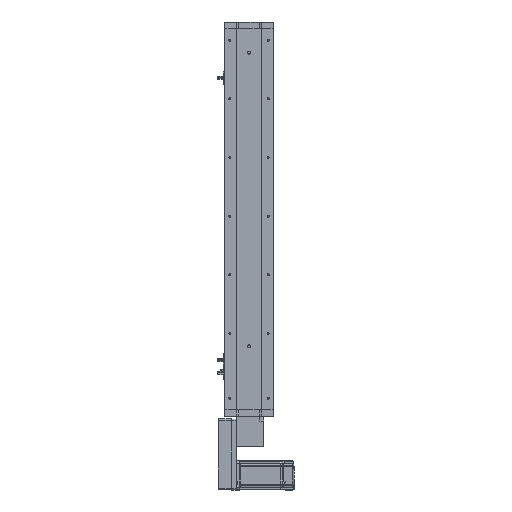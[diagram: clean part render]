
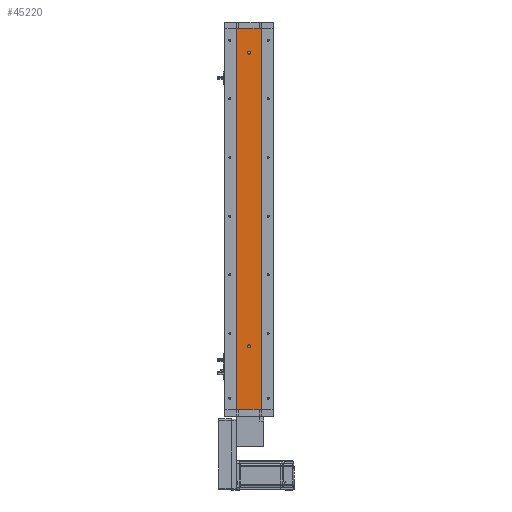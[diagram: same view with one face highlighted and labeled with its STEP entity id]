
A CAD part, left-side view. The second image highlights one B-rep face of the part: STEP entity #45220.
In plain terms, the highlighted planar face has unit normal (-1, 0, 0).
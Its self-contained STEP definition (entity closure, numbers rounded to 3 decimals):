
#641 = DIRECTION ( 'NONE',  ( 0., -1., 0. ) ) ;
#775 = DIRECTION ( 'NONE',  ( 0., 0., 1. ) ) ;
#964 = DIRECTION ( 'NONE',  ( 0., -1., 0. ) ) ;
#1505 = LINE ( 'NONE', #52764, #14942 ) ;
#1965 = CARTESIAN_POINT ( 'NONE',  ( -18.926, 0., 733. ) ) ;
#2054 = CARTESIAN_POINT ( 'NONE',  ( -18.926, -24.785, 780. ) ) ;
#3705 = CARTESIAN_POINT ( 'NONE',  ( -18.926, -24.785, 780. ) ) ;
#4075 = CARTESIAN_POINT ( 'NONE',  ( -18.926, -24.785, 0. ) ) ;
#4166 = ORIENTED_EDGE ( 'NONE', *, *, #31981, .F. ) ;
#5437 = CARTESIAN_POINT ( 'NONE',  ( -18.926, 0., 727. ) ) ;
#7392 = CIRCLE ( 'NONE', #35010, 3. ) ;
#8353 = EDGE_CURVE ( 'NONE', #23643, #31760, #49409, .T. ) ;
#8849 = DIRECTION ( 'NONE',  ( 0., 0., -1. ) ) ;
#9722 = VECTOR ( 'NONE', #964, 1000. ) ;
#10135 = VECTOR ( 'NONE', #8849, 1000. ) ;
#10209 = ORIENTED_EDGE ( 'NONE', *, *, #31285, .T. ) ;
#11812 = DIRECTION ( 'NONE',  ( -1., 0., 0. ) ) ;
#12088 = VERTEX_POINT ( 'NONE', #5437 ) ;
#12410 = FACE_OUTER_BOUND ( 'NONE', #53304, .T. ) ;
#12825 = CARTESIAN_POINT ( 'NONE',  ( -18.926, 24.785, 780. ) ) ;
#13532 = CARTESIAN_POINT ( 'NONE',  ( -18.926, 0., 130. ) ) ;
#14942 = VECTOR ( 'NONE', #17474, 1000. ) ;
#15565 = FACE_BOUND ( 'NONE', #46084, .T. ) ;
#16948 = VERTEX_POINT ( 'NONE', #2054 ) ;
#17474 = DIRECTION ( 'NONE',  ( 0., 0., -1. ) ) ;
#17842 = DIRECTION ( 'NONE',  ( 0., 0., -1. ) ) ;
#17947 = ORIENTED_EDGE ( 'NONE', *, *, #19335, .F. ) ;
#18553 = DIRECTION ( 'NONE',  ( 0., 0., 1. ) ) ;
#19335 = EDGE_CURVE ( 'NONE', #25209, #12088, #7392, .T. ) ;
#22109 = ORIENTED_EDGE ( 'NONE', *, *, #63446, .F. ) ;
#23643 = VERTEX_POINT ( 'NONE', #44068 ) ;
#24608 = AXIS2_PLACEMENT_3D ( 'NONE', #12825, #48079, #17842 ) ;
#25209 = VERTEX_POINT ( 'NONE', #1965 ) ;
#28448 = CARTESIAN_POINT ( 'NONE',  ( -18.926, 0., 730. ) ) ;
#30990 = DIRECTION ( 'NONE',  ( -1., 0., 0. ) ) ;
#31285 = EDGE_CURVE ( 'NONE', #59730, #65208, #1505, .T. ) ;
#31290 = CIRCLE ( 'NONE', #34780, 3. ) ;
#31760 = VERTEX_POINT ( 'NONE', #61219 ) ;
#31981 = EDGE_CURVE ( 'NONE', #16948, #54096, #62790, .T. ) ;
#33196 = LINE ( 'NONE', #60775, #46675 ) ;
#33483 = DIRECTION ( 'NONE',  ( 0., 0., 1. ) ) ;
#34503 = ORIENTED_EDGE ( 'NONE', *, *, #60146, .F. ) ;
#34770 = CIRCLE ( 'NONE', #35518, 3. ) ;
#34780 = AXIS2_PLACEMENT_3D ( 'NONE', #28448, #63651, #33483 ) ;
#35010 = AXIS2_PLACEMENT_3D ( 'NONE', #42014, #11812, #47078 ) ;
#35518 = AXIS2_PLACEMENT_3D ( 'NONE', #13532, #48781, #18553 ) ;
#35753 = ORIENTED_EDGE ( 'NONE', *, *, #46531, .T. ) ;
#36040 = CARTESIAN_POINT ( 'NONE',  ( -18.926, 24.785, 0. ) ) ;
#36504 = LINE ( 'NONE', #61325, #9722 ) ;
#40776 = ORIENTED_EDGE ( 'NONE', *, *, #45295, .F. ) ;
#42014 = CARTESIAN_POINT ( 'NONE',  ( -18.926, 0., 730. ) ) ;
#44068 = CARTESIAN_POINT ( 'NONE',  ( -18.926, 0., 127. ) ) ;
#45220 = ADVANCED_FACE ( 'NONE', ( #54193, #15565, #12410 ), #57907, .F. ) ;
#45295 = EDGE_CURVE ( 'NONE', #12088, #25209, #31290, .T. ) ;
#45496 = ORIENTED_EDGE ( 'NONE', *, *, #8353, .F. ) ;
#46084 = EDGE_LOOP ( 'NONE', ( #17947, #40776 ) ) ;
#46531 = EDGE_CURVE ( 'NONE', #65208, #54096, #36504, .T. ) ;
#46675 = VECTOR ( 'NONE', #641, 1000. ) ;
#47078 = DIRECTION ( 'NONE',  ( 0., 0., 1. ) ) ;
#48079 = DIRECTION ( 'NONE',  ( 1., 0., 0. ) ) ;
#48781 = DIRECTION ( 'NONE',  ( -1., 0., 0. ) ) ;
#49409 = CIRCLE ( 'NONE', #58120, 3. ) ;
#52764 = CARTESIAN_POINT ( 'NONE',  ( -18.926, 24.785, 780. ) ) ;
#53304 = EDGE_LOOP ( 'NONE', ( #35753, #4166, #22109, #10209 ) ) ;
#54096 = VERTEX_POINT ( 'NONE', #4075 ) ;
#54193 = FACE_BOUND ( 'NONE', #63588, .T. ) ;
#57907 = PLANE ( 'NONE',  #24608 ) ;
#58120 = AXIS2_PLACEMENT_3D ( 'NONE', #61126, #30990, #775 ) ;
#59730 = VERTEX_POINT ( 'NONE', #60450 ) ;
#60146 = EDGE_CURVE ( 'NONE', #31760, #23643, #34770, .T. ) ;
#60450 = CARTESIAN_POINT ( 'NONE',  ( -18.926, 24.785, 780. ) ) ;
#60775 = CARTESIAN_POINT ( 'NONE',  ( -18.926, 24.785, 780. ) ) ;
#61126 = CARTESIAN_POINT ( 'NONE',  ( -18.926, 0., 130. ) ) ;
#61219 = CARTESIAN_POINT ( 'NONE',  ( -18.926, 0., 133. ) ) ;
#61325 = CARTESIAN_POINT ( 'NONE',  ( -18.926, 24.785, 0. ) ) ;
#62790 = LINE ( 'NONE', #3705, #10135 ) ;
#63446 = EDGE_CURVE ( 'NONE', #59730, #16948, #33196, .T. ) ;
#63588 = EDGE_LOOP ( 'NONE', ( #34503, #45496 ) ) ;
#63651 = DIRECTION ( 'NONE',  ( -1., 0., 0. ) ) ;
#65208 = VERTEX_POINT ( 'NONE', #36040 ) ;
